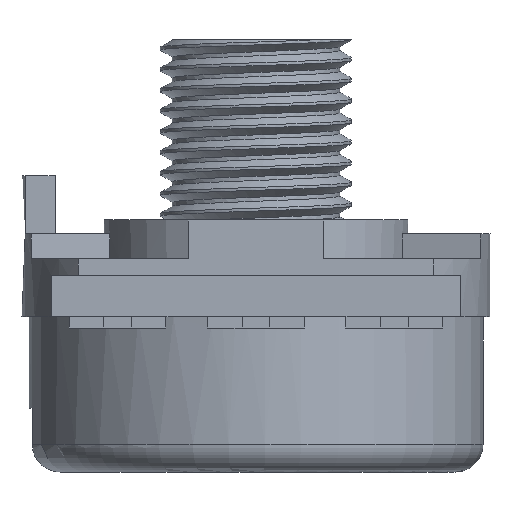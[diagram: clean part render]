
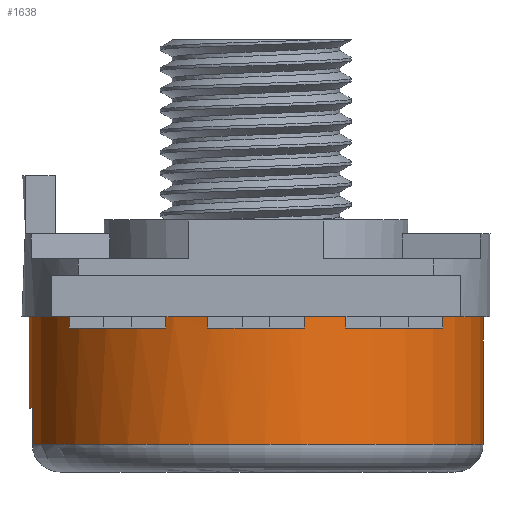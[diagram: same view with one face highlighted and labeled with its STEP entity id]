
A CAD part, front view. The second image highlights one B-rep face of the part: STEP entity #1638.
In plain terms, the highlighted cylindrical face has radius 8.2 mm (diameter 16.4 mm), a full revolution.
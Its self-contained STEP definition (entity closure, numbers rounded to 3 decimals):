
#65=LINE('',#2816,#221);
#80=LINE('',#2861,#236);
#81=LINE('',#2866,#237);
#101=LINE('',#4487,#257);
#125=LINE('',#4540,#281);
#126=LINE('',#4542,#282);
#221=VECTOR('',#1940,1000.);
#236=VECTOR('',#1975,1000.);
#237=VECTOR('',#1978,1000.);
#257=VECTOR('',#2042,1000.);
#281=VECTOR('',#2096,1000.);
#282=VECTOR('',#2097,1000.);
#806=ORIENTED_EDGE('',*,*,#1123,.T.);
#807=ORIENTED_EDGE('',*,*,#1052,.T.);
#808=ORIENTED_EDGE('',*,*,#1124,.T.);
#809=ORIENTED_EDGE('',*,*,#1125,.T.);
#810=ORIENTED_EDGE('',*,*,#1066,.T.);
#811=ORIENTED_EDGE('',*,*,#1079,.F.);
#812=ORIENTED_EDGE('',*,*,#1068,.T.);
#813=ORIENTED_EDGE('',*,*,#1126,.T.);
#814=ORIENTED_EDGE('',*,*,#1099,.F.);
#815=ORIENTED_EDGE('',*,*,#1044,.F.);
#816=ORIENTED_EDGE('',*,*,#1045,.F.);
#817=ORIENTED_EDGE('',*,*,#1097,.F.);
#1044=EDGE_CURVE('',#1268,#1265,#65,.T.);
#1045=EDGE_CURVE('',#1269,#1268,#1373,.F.);
#1052=EDGE_CURVE('',#1276,#1275,#1375,.F.);
#1066=EDGE_CURVE('',#1289,#1290,#80,.T.);
#1068=EDGE_CURVE('',#1292,#1291,#81,.F.);
#1079=EDGE_CURVE('',#1292,#1290,#1384,.T.);
#1097=EDGE_CURVE('',#1305,#1269,#101,.F.);
#1099=EDGE_CURVE('',#1265,#1305,#1389,.T.);
#1123=EDGE_CURVE('',#1320,#1276,#125,.T.);
#1124=EDGE_CURVE('',#1275,#1321,#126,.F.);
#1125=EDGE_CURVE('',#1321,#1289,#1391,.F.);
#1126=EDGE_CURVE('',#1291,#1320,#1392,.F.);
#1265=VERTEX_POINT('',#2809);
#1268=VERTEX_POINT('',#2815);
#1269=VERTEX_POINT('',#2819);
#1275=VERTEX_POINT('',#2832);
#1276=VERTEX_POINT('',#2834);
#1289=VERTEX_POINT('',#2862);
#1290=VERTEX_POINT('',#2863);
#1291=VERTEX_POINT('',#2865);
#1292=VERTEX_POINT('',#2867);
#1305=VERTEX_POINT('',#4486);
#1320=VERTEX_POINT('',#4541);
#1321=VERTEX_POINT('',#4543);
#1373=CIRCLE('',#1721,8.2);
#1375=CIRCLE('',#1724,8.2);
#1384=CIRCLE('',#1740,8.2);
#1389=CIRCLE('',#1754,8.2);
#1391=CIRCLE('',#1768,8.2);
#1392=CIRCLE('',#1769,8.2);
#1459=EDGE_LOOP('',(#806,#807,#808,#809,#810,#811,#812,#813));
#1460=EDGE_LOOP('',(#814,#815,#816,#817));
#1546=FACE_BOUND('',#1459,.T.);
#1547=FACE_BOUND('',#1460,.T.);
#1579=CYLINDRICAL_SURFACE('',#1767,8.2);
#1638=ADVANCED_FACE('',(#1546,#1547),#1579,.T.);
#1721=AXIS2_PLACEMENT_3D('',#2818,#1943,#1944);
#1724=AXIS2_PLACEMENT_3D('',#2833,#1954,#1955);
#1740=AXIS2_PLACEMENT_3D('',#2886,#2004,#2005);
#1754=AXIS2_PLACEMENT_3D('',#4490,#2046,#2047);
#1767=AXIS2_PLACEMENT_3D('',#4539,#2094,#2095);
#1768=AXIS2_PLACEMENT_3D('',#4544,#2098,#2099);
#1769=AXIS2_PLACEMENT_3D('',#4545,#2100,#2101);
#1940=DIRECTION('',(0.,0.,-1.));
#1943=DIRECTION('',(0.,0.,1.));
#1944=DIRECTION('',(1.,0.,0.));
#1954=DIRECTION('',(0.,0.,1.));
#1955=DIRECTION('',(1.,0.,0.));
#1975=DIRECTION('',(0.,0.,1.));
#1978=DIRECTION('',(0.,0.,1.));
#2004=DIRECTION('',(0.,0.,1.));
#2005=DIRECTION('',(1.,0.,0.));
#2042=DIRECTION('',(0.,0.,-1.));
#2046=DIRECTION('',(0.,0.,-1.));
#2047=DIRECTION('',(-1.,0.,0.));
#2094=DIRECTION('',(0.,0.,1.));
#2095=DIRECTION('',(1.,0.,0.));
#2096=DIRECTION('',(0.,0.,1.));
#2097=DIRECTION('',(0.,0.,1.));
#2098=DIRECTION('',(0.,0.,1.));
#2099=DIRECTION('',(1.,0.,0.));
#2100=DIRECTION('',(0.,0.,1.));
#2101=DIRECTION('',(1.,0.,0.));
#2809=CARTESIAN_POINT('',(-8.08,1.4,-6.1));
#2815=CARTESIAN_POINT('',(-8.08,1.4,-4.8));
#2816=CARTESIAN_POINT('',(-8.08,1.4,0.));
#2818=CARTESIAN_POINT('',(0.,0.,-4.8));
#2819=CARTESIAN_POINT('',(-8.08,-1.4,-4.8));
#2832=CARTESIAN_POINT('',(1.62,-8.038,-1.5));
#2833=CARTESIAN_POINT('',(0.,0.,-1.5));
#2834=CARTESIAN_POINT('',(-1.62,-8.038,-1.5));
#2861=CARTESIAN_POINT('',(0.322,-8.194,-7.1));
#2862=CARTESIAN_POINT('',(0.322,-8.194,-1.9));
#2863=CARTESIAN_POINT('',(0.322,-8.194,-1.5));
#2865=CARTESIAN_POINT('',(-0.322,-8.194,-1.9));
#2866=CARTESIAN_POINT('',(-0.322,-8.194,-7.1));
#2867=CARTESIAN_POINT('',(-0.322,-8.194,-1.5));
#2886=CARTESIAN_POINT('',(0.,0.,-1.5));
#4486=CARTESIAN_POINT('',(-8.08,-1.4,-6.1));
#4487=CARTESIAN_POINT('',(-8.08,-1.4,0.));
#4490=CARTESIAN_POINT('',(0.,0.,-6.1));
#4539=CARTESIAN_POINT('',(0.,0.,-7.1));
#4540=CARTESIAN_POINT('',(-1.62,-8.038,-7.1));
#4541=CARTESIAN_POINT('',(-1.62,-8.038,-1.9));
#4542=CARTESIAN_POINT('',(1.62,-8.038,-7.1));
#4543=CARTESIAN_POINT('',(1.62,-8.038,-1.9));
#4544=CARTESIAN_POINT('',(0.,0.,-1.9));
#4545=CARTESIAN_POINT('',(0.,0.,-1.9));
